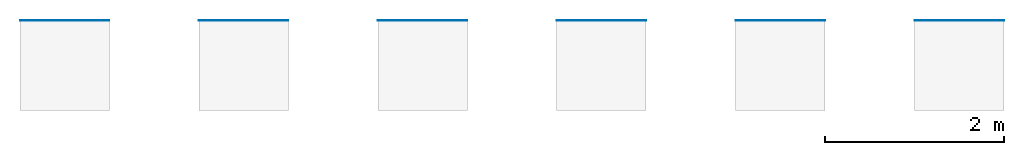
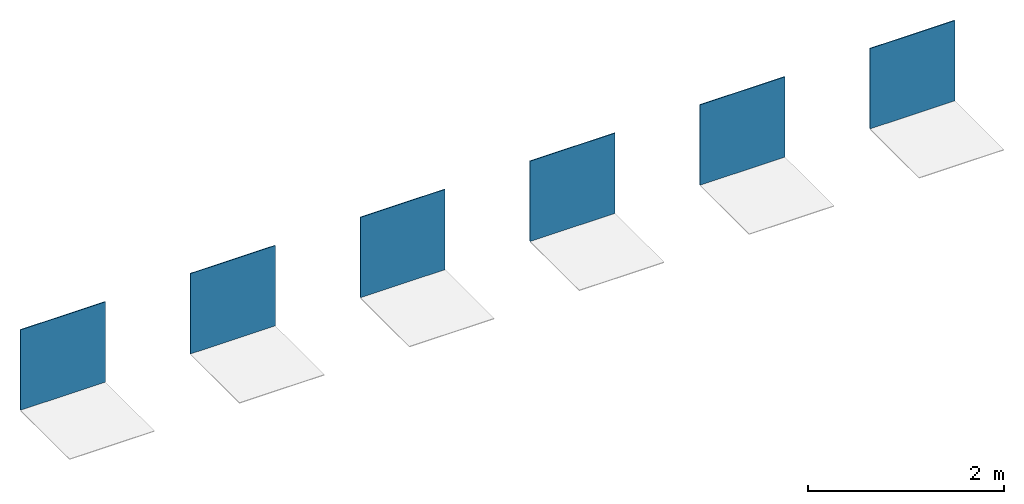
# One storey, part 1 of 2: 6 walls.
"""IFC2X3 building model written with IfcOpenShell, lengths in millimetres."""

from ifc_helpers import new_model, entity, si_unit, converted_unit, derived_unit, direction, frame, frame_2d, origin, place, context, subcontext, project, spatial, rectangle, extrude, material, layer, layer_set, layer_usage, type_object, element, save


model = new_model("IFC2X3")

# Units and contexts
model_context = context("Model", 3, precision=0.01, world=origin(), true_north=direction((6.12303176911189e-17, 1.0)))
body_context = subcontext(model_context, "Body", "Model", "MODEL_VIEW")
ifc_project = project(units=[si_unit("LENGTHUNIT", "METRE", prefix="MILLI"), si_unit("AREAUNIT", "SQUARE_METRE"), si_unit("VOLUMEUNIT", "CUBIC_METRE"), converted_unit("PLANEANGLEUNIT", "DEGREE", entity("IfcRatioMeasure", 0.0174532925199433), si_unit("PLANEANGLEUNIT", "RADIAN"), dimensions=[0, 0, 0, 0, 0, 0, 0]), si_unit("MASSUNIT", "GRAM", prefix="KILO"), derived_unit("MASSDENSITYUNIT", [(si_unit("MASSUNIT", "GRAM", prefix="KILO"), 1), (si_unit("LENGTHUNIT", "METRE"), -3)]), derived_unit("MOMENTOFINERTIAUNIT", [(si_unit("LENGTHUNIT", "METRE"), 4)]), si_unit("TIMEUNIT", "SECOND"), si_unit("FREQUENCYUNIT", "HERTZ"), si_unit("THERMODYNAMICTEMPERATUREUNIT", "DEGREE_CELSIUS"), derived_unit("THERMALTRANSMITTANCEUNIT", [(si_unit("MASSUNIT", "GRAM", prefix="KILO"), 1), (si_unit("THERMODYNAMICTEMPERATUREUNIT", "KELVIN"), -1), (si_unit("TIMEUNIT", "SECOND"), -3)]), derived_unit("VOLUMETRICFLOWRATEUNIT", [(si_unit("LENGTHUNIT", "METRE"), 3), (si_unit("TIMEUNIT", "SECOND"), -1)]), si_unit("ELECTRICCURRENTUNIT", "AMPERE"), si_unit("ELECTRICVOLTAGEUNIT", "VOLT"), si_unit("POWERUNIT", "WATT"), si_unit("FORCEUNIT", "NEWTON", prefix="KILO"), si_unit("ILLUMINANCEUNIT", "LUX"), si_unit("LUMINOUSFLUXUNIT", "LUMEN"), si_unit("LUMINOUSINTENSITYUNIT", "CANDELA"), derived_unit("USERDEFINED", [(si_unit("MASSUNIT", "GRAM", prefix="KILO"), -1), (si_unit("LENGTHUNIT", "METRE"), -2), (si_unit("TIMEUNIT", "SECOND"), 3), (si_unit("LUMINOUSFLUXUNIT", "LUMEN"), 1)]), derived_unit("LINEARVELOCITYUNIT", [(si_unit("LENGTHUNIT", "METRE"), 1), (si_unit("TIMEUNIT", "SECOND"), -1)]), si_unit("PRESSUREUNIT", "PASCAL"), derived_unit("USERDEFINED", [(si_unit("LENGTHUNIT", "METRE"), -2), (si_unit("MASSUNIT", "GRAM", prefix="KILO"), 1), (si_unit("TIMEUNIT", "SECOND"), -2)]), derived_unit("LINEARFORCEUNIT", [(si_unit("MASSUNIT", "GRAM", prefix="KILO"), 1), (si_unit("LENGTHUNIT", "METRE"), 1), (si_unit("TIMEUNIT", "SECOND"), -2), (si_unit("LENGTHUNIT", "METRE"), -1)]), derived_unit("PLANARFORCEUNIT", [(si_unit("MASSUNIT", "GRAM", prefix="KILO"), 1), (si_unit("LENGTHUNIT", "METRE"), 1), (si_unit("TIMEUNIT", "SECOND"), -2), (si_unit("LENGTHUNIT", "METRE"), -2)])], contexts=[model_context])

# Site, building, storey
site_placement = place(None, origin())
site = spatial("IfcSite", under=ifc_project, at=site_placement, Name="Default", CompositionType="ELEMENT")
building_placement = place(site_placement, origin())
building = spatial("IfcBuilding", under=site, at=building_placement, CompositionType="ELEMENT")
storey_placement = place(building_placement, origin())
storey = spatial("IfcBuildingStorey", under=building, at=storey_placement, Name="Level 1", CompositionType="ELEMENT", Elevation=0.0)

# Walls
ifc_material_1 = material(Name="REVIGRÉS-OMNISTONE-MOLTI-30X30-MATTRECT-BONE")
ifc_layer_1 = layer(ifc_material_1, 9.8)
ifc_layer_set_1 = layer_set([ifc_layer_1], Name="Basic Wall:REVIGRÉS-OMNISTONE-MOLTI-30X30-MATTRECT-BONE")
ifc_layer_usage_1 = layer_usage(ifc_layer_set_1, "AXIS2", "POSITIVE", -4.9)
wall_type_1 = type_object("IfcWallType", Name="Basic Wall:REVIGRÉS-OMNISTONE-MOLTI-30X30-MATTRECT-BONE", PredefinedType="STANDARD", material=ifc_layer_set_1)
wall_1_placement = place(storey_placement, frame((77208.2238843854, 18816.1034685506, 0.0)))
element("IfcWallStandardCase", 1, at=wall_1_placement, inside=storey, type_object=wall_type_1, material=ifc_layer_usage_1, Name="Basic Wall:REVIGRÉS-OMNISTONE-MOLTI-30X30-MATTRECT-BONE", ObjectType="Basic Wall:REVIGRÉS-OMNISTONE-MOLTI-30X30-MATTRECT-BONE", context=body_context, shape_type="SweptSolid", body=[
    extrude(rectangle(XDim=999.999999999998, YDim=9.8000000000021, at=frame_2d((499.999999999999, 5.41344746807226e-13), x_axis=(-1.0, 0.0))), origin(), (0.0, 0.0, 1.0), 1000.0),
])
ifc_material_2 = material(Name="REVIGRÉS-OMNISTONE-MOLTI-30X30-MATTRECT-ICE")
ifc_layer_2 = layer(ifc_material_2, 9.8)
ifc_layer_set_2 = layer_set([ifc_layer_2], Name="Basic Wall:REVIGRÉS-OMNISTONE-MOLTI-30X30-MATTRECT-ICE")
ifc_layer_usage_2 = layer_usage(ifc_layer_set_2, "AXIS2", "POSITIVE", -4.9)
wall_type_2 = type_object("IfcWallType", Name="Basic Wall:REVIGRÉS-OMNISTONE-MOLTI-30X30-MATTRECT-ICE", PredefinedType="STANDARD", material=ifc_layer_set_2)
wall_2_placement = place(storey_placement, frame((79208.2238843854, 18816.1034685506, 0.0)))
element("IfcWallStandardCase", 2, at=wall_2_placement, inside=storey, type_object=wall_type_2, material=ifc_layer_usage_2, Name="Basic Wall:REVIGRÉS-OMNISTONE-MOLTI-30X30-MATTRECT-ICE", ObjectType="Basic Wall:REVIGRÉS-OMNISTONE-MOLTI-30X30-MATTRECT-ICE", context=body_context, shape_type="SweptSolid", body=[
    extrude(rectangle(XDim=999.999999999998, YDim=9.8000000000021, at=frame_2d((499.999999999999, 5.41344746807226e-13), x_axis=(-1.0, 0.0))), origin(), (0.0, 0.0, 1.0), 1000.0),
])
ifc_material_3 = material(Name="REVIGRÉS-OMNISTONE-MOLTI-30X30-MATTRECT-IRON")
ifc_layer_3 = layer(ifc_material_3, 9.8)
ifc_layer_set_3 = layer_set([ifc_layer_3], Name="Basic Wall:REVIGRÉS-OMNISTONE-MOLTI-30X30-MATTRECT-IRON")
ifc_layer_usage_3 = layer_usage(ifc_layer_set_3, "AXIS2", "POSITIVE", -4.9)
wall_type_3 = type_object("IfcWallType", Name="Basic Wall:REVIGRÉS-OMNISTONE-MOLTI-30X30-MATTRECT-IRON", PredefinedType="STANDARD", material=ifc_layer_set_3)
wall_3_placement = place(storey_placement, frame((81208.2238843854, 18816.1034685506, 0.0)))
element("IfcWallStandardCase", 3, at=wall_3_placement, inside=storey, type_object=wall_type_3, material=ifc_layer_usage_3, Name="Basic Wall:REVIGRÉS-OMNISTONE-MOLTI-30X30-MATTRECT-IRON", ObjectType="Basic Wall:REVIGRÉS-OMNISTONE-MOLTI-30X30-MATTRECT-IRON", context=body_context, shape_type="SweptSolid", body=[
    extrude(rectangle(XDim=999.999999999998, YDim=9.8000000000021, at=frame_2d((499.999999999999, 5.41344746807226e-13), x_axis=(-1.0, 0.0))), origin(), (0.0, 0.0, 1.0), 1000.0),
])
ifc_material_4 = material(Name="REVIGRÉS-OMNISTONE-MOLTI-30X30-MATTRECT-JET")
ifc_layer_4 = layer(ifc_material_4, 9.8)
ifc_layer_set_4 = layer_set([ifc_layer_4], Name="Basic Wall:REVIGRÉS-OMNISTONE-MOLTI-30X30-MATTRECT-JET")
ifc_layer_usage_4 = layer_usage(ifc_layer_set_4, "AXIS2", "POSITIVE", -4.9)
wall_type_4 = type_object("IfcWallType", Name="Basic Wall:REVIGRÉS-OMNISTONE-MOLTI-30X30-MATTRECT-JET", PredefinedType="STANDARD", material=ifc_layer_set_4)
wall_4_placement = place(storey_placement, frame((83208.2238843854, 18816.1034685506, 0.0)))
element("IfcWallStandardCase", 4, at=wall_4_placement, inside=storey, type_object=wall_type_4, material=ifc_layer_usage_4, Name="Basic Wall:REVIGRÉS-OMNISTONE-MOLTI-30X30-MATTRECT-JET", ObjectType="Basic Wall:REVIGRÉS-OMNISTONE-MOLTI-30X30-MATTRECT-JET", context=body_context, shape_type="SweptSolid", body=[
    extrude(rectangle(XDim=999.999999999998, YDim=9.8000000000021, at=frame_2d((499.999999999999, 5.41344746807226e-13), x_axis=(-1.0, 0.0))), origin(), (0.0, 0.0, 1.0), 1000.0),
])
ifc_material_5 = material(Name="REVIGRÉS-OMNISTONE-MOLTI-30X30-MATTRECT-PLATINA")
ifc_layer_5 = layer(ifc_material_5, 9.8)
ifc_layer_set_5 = layer_set([ifc_layer_5], Name="Basic Wall:REVIGRÉS-OMNISTONE-MOLTI-30X30-MATTRECT-PLATINA")
ifc_layer_usage_5 = layer_usage(ifc_layer_set_5, "AXIS2", "POSITIVE", -4.9)
wall_type_5 = type_object("IfcWallType", Name="Basic Wall:REVIGRÉS-OMNISTONE-MOLTI-30X30-MATTRECT-PLATINA", PredefinedType="STANDARD", material=ifc_layer_set_5)
wall_5_placement = place(storey_placement, frame((85208.2238843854, 18816.1034685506, 0.0)))
element("IfcWallStandardCase", 5, at=wall_5_placement, inside=storey, type_object=wall_type_5, material=ifc_layer_usage_5, Name="Basic Wall:REVIGRÉS-OMNISTONE-MOLTI-30X30-MATTRECT-PLATINA", ObjectType="Basic Wall:REVIGRÉS-OMNISTONE-MOLTI-30X30-MATTRECT-PLATINA", context=body_context, shape_type="SweptSolid", body=[
    extrude(rectangle(XDim=999.999999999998, YDim=9.8000000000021, at=frame_2d((499.999999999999, 5.41344746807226e-13), x_axis=(-1.0, 0.0))), origin(), (0.0, 0.0, 1.0), 1000.0),
])
ifc_material_6 = material(Name="REVIGRÉS-OMNISTONE-MOLTI-30X30-MATTRECT-ROPE")
ifc_layer_6 = layer(ifc_material_6, 9.8)
ifc_layer_set_6 = layer_set([ifc_layer_6], Name="Basic Wall:REVIGRÉS-OMNISTONE-MOLTI-30X30-MATTRECT-ROPE")
ifc_layer_usage_6 = layer_usage(ifc_layer_set_6, "AXIS2", "POSITIVE", -4.9)
wall_type_6 = type_object("IfcWallType", Name="Basic Wall:REVIGRÉS-OMNISTONE-MOLTI-30X30-MATTRECT-ROPE", PredefinedType="STANDARD", material=ifc_layer_set_6)
wall_6_placement = place(storey_placement, frame((87208.2238843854, 18816.1034685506, 0.0)))
element("IfcWallStandardCase", 6, at=wall_6_placement, inside=storey, type_object=wall_type_6, material=ifc_layer_usage_6, Name="Basic Wall:REVIGRÉS-OMNISTONE-MOLTI-30X30-MATTRECT-ROPE", ObjectType="Basic Wall:REVIGRÉS-OMNISTONE-MOLTI-30X30-MATTRECT-ROPE", context=body_context, shape_type="SweptSolid", body=[
    extrude(rectangle(XDim=999.999999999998, YDim=9.8000000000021, at=frame_2d((499.999999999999, 5.41344746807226e-13), x_axis=(-1.0, 0.0))), origin(), (0.0, 0.0, 1.0), 1000.0),
])

save(model, "model.ifc")
